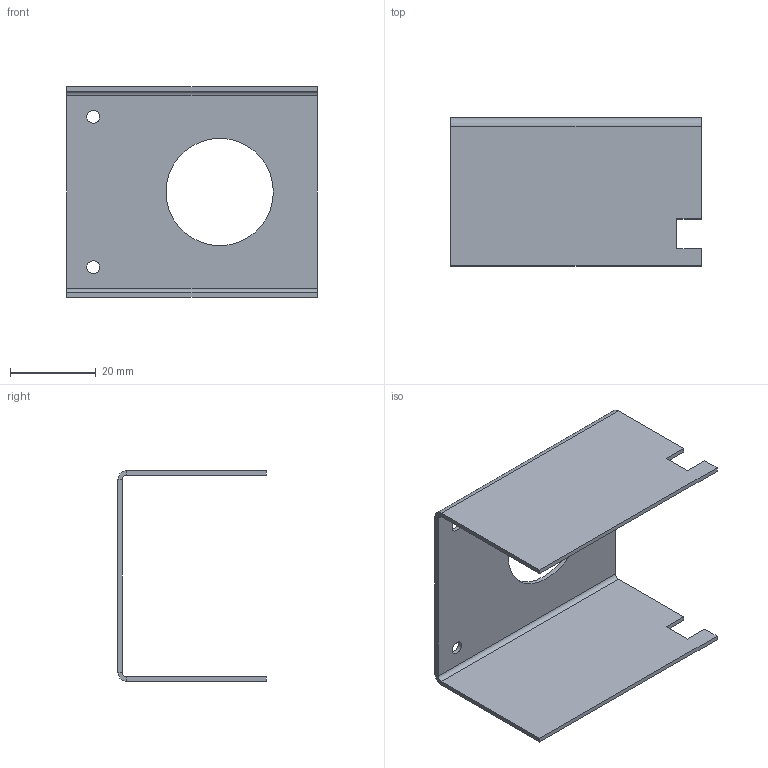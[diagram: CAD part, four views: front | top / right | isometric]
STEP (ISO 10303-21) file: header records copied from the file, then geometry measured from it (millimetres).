
FILE_DESCRIPTION(/* description */ (''),/* implementation_level */ '2;1');
FILE_NAME(/* name */ 'C:\Users\strothej\Documents\ActualDocuments\MicroscopeParts\TwoPhotonSystem\ScanningMechanics\v26\Drawings\Zeiss_Filter_Cube_Cover.stp',/* time_stamp */ '2017-05-19T11:43:00-07:00',/* author */ ('strothej'),/* organization */ (''),/* preprocessor_version */ 'ST-DEVELOPER v16.1',/* originating_system */ 'Autodesk Inventor 2016',/* authorisation */ '');
FILE_SCHEMA (('AUTOMOTIVE_DESIGN { 1 0 10303 214 3 1 1 }'));
Length unit declared in the file: millimetre
Products named in the file (1): Zeiss_Filter_Cube_Cover
Bounding box: 58.4 x 34.52 x 49.05 mm (x, y, z)
Volume: 6259.8 mm3; surface area: 12708.2 mm2
Topology: 1 solids, 1 shells, 33 faces, 77 edges, 46 vertices
Faces by surface type: plane 26, cylinder 7
Full cylindrical faces by diameter (mm): 3 x2, 25 x1
Entity records: 938 total; most frequent: DIRECTION 156, CARTESIAN_POINT 154, ORIENTED_EDGE 148, EDGE_CURVE 74, LINE 60, VECTOR 60, AXIS2_PLACEMENT_3D 48, VERTEX_POINT 46
